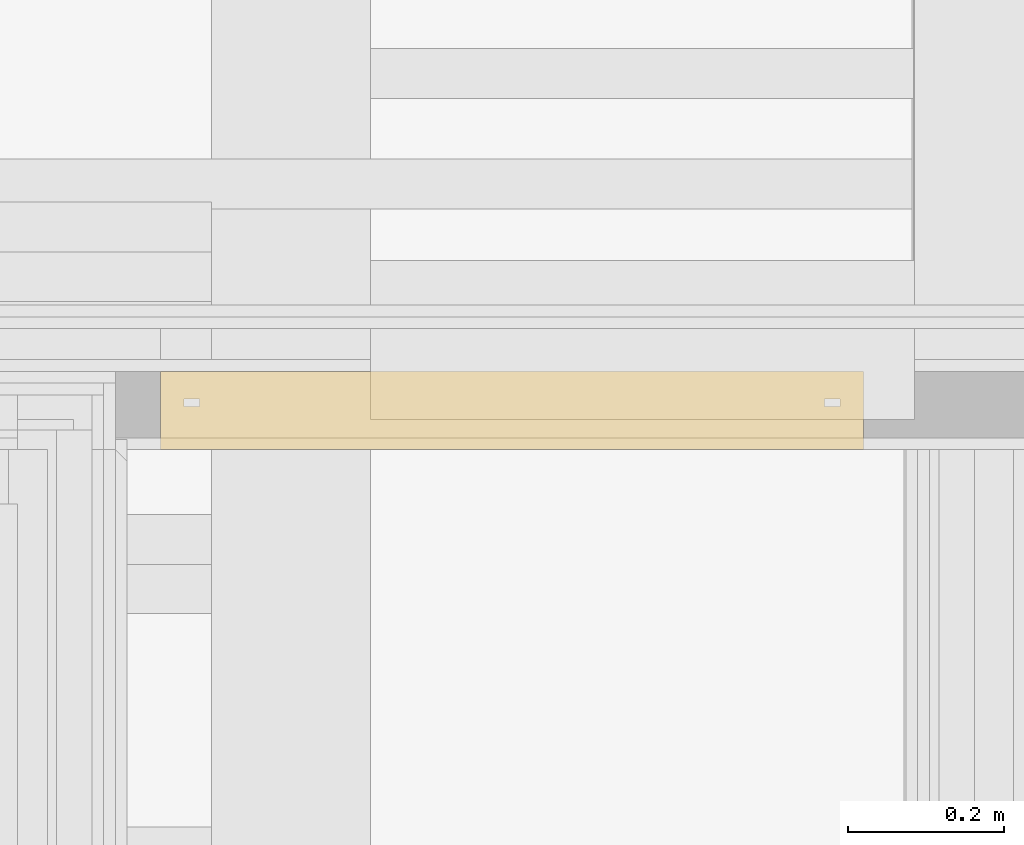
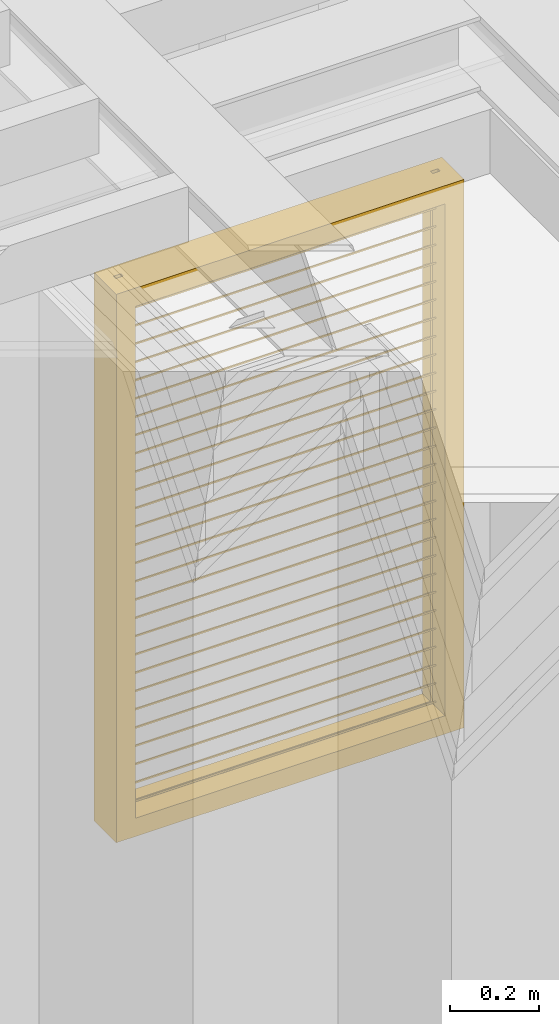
# One storey, part 120 of 183: 1 curtain wall.
"""IFC2X3 building model written with IfcOpenShell, lengths in metres."""

from ifc_helpers import new_model, entity, si_unit, converted_unit, derived_unit, money_unit, direction, frame, origin_with_axes, place, context, subcontext, project, spatial, open_shell, surface_model, material, type_object, element, save


model = new_model("IFC2X3")

# Units and contexts
model_context = context("Model", 3, precision=1e-05, world=origin_with_axes(), true_north=direction((0.0, 1.0)))
body_context = subcontext(model_context, "Body", "Model", "MODEL_VIEW", scale=1.0)
ifc_project = project(units=[si_unit("LENGTHUNIT", "METRE"), si_unit("AREAUNIT", "SQUARE_METRE"), si_unit("VOLUMEUNIT", "CUBIC_METRE"), si_unit("ABSORBEDDOSEUNIT", "GRAY"), si_unit("AMOUNTOFSUBSTANCEUNIT", "MOLE"), si_unit("DOSEEQUIVALENTUNIT", "SIEVERT"), si_unit("ELECTRICCAPACITANCEUNIT", "FARAD"), si_unit("ELECTRICCHARGEUNIT", "COULOMB"), si_unit("ELECTRICCONDUCTANCEUNIT", "SIEMENS"), si_unit("ELECTRICCURRENTUNIT", "AMPERE"), si_unit("ELECTRICRESISTANCEUNIT", "OHM"), si_unit("ELECTRICVOLTAGEUNIT", "VOLT"), si_unit("ENERGYUNIT", "JOULE"), si_unit("FORCEUNIT", "NEWTON"), si_unit("FREQUENCYUNIT", "HERTZ"), si_unit("ILLUMINANCEUNIT", "LUX"), si_unit("INDUCTANCEUNIT", "HENRY"), si_unit("LUMINOUSFLUXUNIT", "LUMEN"), si_unit("LUMINOUSINTENSITYUNIT", "CANDELA"), si_unit("MAGNETICFLUXDENSITYUNIT", "TESLA"), si_unit("MAGNETICFLUXUNIT", "WEBER"), si_unit("MASSUNIT", "GRAM"), converted_unit("PLANEANGLEUNIT", "degree", entity("IfcReal", 0.0174532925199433), si_unit("PLANEANGLEUNIT", "RADIAN"), dimensions=[0, 0, 0, 0, 0, 0, 0]), si_unit("POWERUNIT", "WATT"), si_unit("PRESSUREUNIT", "PASCAL"), si_unit("RADIOACTIVITYUNIT", "BECQUEREL"), si_unit("SOLIDANGLEUNIT", "STERADIAN"), si_unit("THERMODYNAMICTEMPERATUREUNIT", "KELVIN"), si_unit("TIMEUNIT", "SECOND"), derived_unit("ACCELERATIONUNIT", [(si_unit("LENGTHUNIT", "METRE"), 1), (si_unit("TIMEUNIT", "SECOND"), -2)]), derived_unit("ANGULARVELOCITYUNIT", [(converted_unit("PLANEANGLEUNIT", "degree", entity("IfcReal", 0.0174532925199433), si_unit("PLANEANGLEUNIT", "RADIAN"), dimensions=[0, 0, 0, 0, 0, 0, 0]), 1), (si_unit("TIMEUNIT", "SECOND"), -1)]), derived_unit("CURVATUREUNIT", [(converted_unit("PLANEANGLEUNIT", "degree", entity("IfcReal", 0.0174532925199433), si_unit("PLANEANGLEUNIT", "RADIAN"), dimensions=[0, 0, 0, 0, 0, 0, 0]), 1), (si_unit("LENGTHUNIT", "METRE"), -1)]), derived_unit("DYNAMICVISCOSITYUNIT", [(si_unit("PRESSUREUNIT", "PASCAL"), 1), (si_unit("TIMEUNIT", "SECOND"), 1)]), derived_unit("HEATFLUXDENSITYUNIT", [(si_unit("POWERUNIT", "WATT"), 1), (si_unit("LENGTHUNIT", "METRE"), -2)]), derived_unit("HEATINGVALUEUNIT", [(si_unit("ENERGYUNIT", "JOULE"), 1), (si_unit("MASSUNIT", "GRAM"), -1)]), derived_unit("INTEGERCOUNTRATEUNIT", [(si_unit("TIMEUNIT", "SECOND"), -1)]), derived_unit("IONCONCENTRATIONUNIT", [(si_unit("MASSUNIT", "GRAM"), 1), (si_unit("VOLUMEUNIT", "CUBIC_METRE"), -1)]), derived_unit("ISOTHERMALMOISTURECAPACITYUNIT", [(si_unit("VOLUMEUNIT", "CUBIC_METRE"), 1), (si_unit("MASSUNIT", "GRAM"), -1)]), derived_unit("KINEMATICVISCOSITYUNIT", [(si_unit("AREAUNIT", "SQUARE_METRE"), 1), (si_unit("TIMEUNIT", "SECOND"), -1)]), derived_unit("LINEARFORCEUNIT", [(si_unit("FORCEUNIT", "NEWTON"), 1), (si_unit("LENGTHUNIT", "METRE"), -1)]), derived_unit("LINEARMOMENTUNIT", [(si_unit("FORCEUNIT", "NEWTON"), 1), (si_unit("LENGTHUNIT", "METRE"), -1)]), derived_unit("LINEARSTIFFNESSUNIT", [(si_unit("FORCEUNIT", "NEWTON"), 1), (si_unit("LENGTHUNIT", "METRE"), -1)]), derived_unit("LINEARVELOCITYUNIT", [(si_unit("LENGTHUNIT", "METRE"), 1), (si_unit("TIMEUNIT", "SECOND"), -1)]), derived_unit("LUMINOUSINTENSITYDISTRIBUTIONUNIT", [(si_unit("LUMINOUSINTENSITYUNIT", "CANDELA"), 1), (si_unit("LUMINOUSFLUXUNIT", "LUMEN"), -1)]), derived_unit("MASSDENSITYUNIT", [(si_unit("MASSUNIT", "GRAM"), 1), (si_unit("VOLUMEUNIT", "CUBIC_METRE"), -1)]), derived_unit("MASSFLOWRATEUNIT", [(si_unit("MASSUNIT", "GRAM"), 1), (si_unit("TIMEUNIT", "SECOND"), -1)]), derived_unit("MASSPERLENGTHUNIT", [(si_unit("MASSUNIT", "GRAM"), 1), (si_unit("LENGTHUNIT", "METRE"), -1)]), derived_unit("MODULUSOFELASTICITYUNIT", [(si_unit("FORCEUNIT", "NEWTON"), 1), (si_unit("AREAUNIT", "SQUARE_METRE"), -1)]), derived_unit("MODULUSOFLINEARSUBGRADEREACTIONUNIT", [(si_unit("FORCEUNIT", "NEWTON"), 1), (si_unit("LENGTHUNIT", "METRE"), -2)]), derived_unit("MODULUSOFROTATIONALSUBGRADEREACTIONUNIT", [(si_unit("FORCEUNIT", "NEWTON"), 1), (si_unit("LENGTHUNIT", "METRE"), 1)]), derived_unit("MODULUSOFSUBGRADEREACTIONUNIT", [(si_unit("FORCEUNIT", "NEWTON"), 1), (si_unit("VOLUMEUNIT", "CUBIC_METRE"), -1)]), derived_unit("MOISTUREDIFFUSIVITYUNIT", [(si_unit("VOLUMEUNIT", "CUBIC_METRE"), 1), (si_unit("TIMEUNIT", "SECOND"), -1)]), derived_unit("MOLECULARWEIGHTUNIT", [(si_unit("MASSUNIT", "GRAM"), 1), (si_unit("AMOUNTOFSUBSTANCEUNIT", "MOLE"), -1)]), derived_unit("PLANARFORCEUNIT", [(si_unit("FORCEUNIT", "NEWTON"), 1), (si_unit("LENGTHUNIT", "METRE"), -2)]), derived_unit("ROTATIONALFREQUENCYUNIT", [(si_unit("TIMEUNIT", "SECOND"), -1)]), derived_unit("ROTATIONALMASSUNIT", [(si_unit("MASSUNIT", "GRAM"), 1), (si_unit("LENGTHUNIT", "METRE"), 2)]), derived_unit("ROTATIONALSTIFFNESSUNIT", [(si_unit("FORCEUNIT", "NEWTON"), 1), (si_unit("LENGTHUNIT", "METRE"), 1), (converted_unit("PLANEANGLEUNIT", "degree", entity("IfcReal", 0.0174532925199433), si_unit("PLANEANGLEUNIT", "RADIAN"), dimensions=[0, 0, 0, 0, 0, 0, 0]), -1)]), derived_unit("SECTIONAREAINTEGRALUNIT", [(si_unit("LENGTHUNIT", "METRE"), 5)]), derived_unit("SECTIONMODULUSUNIT", [(si_unit("LENGTHUNIT", "METRE"), 3)]), derived_unit("SHEARMODULUSUNIT", [(si_unit("FORCEUNIT", "NEWTON"), 1), (si_unit("AREAUNIT", "SQUARE_METRE"), -1)]), derived_unit("SOUNDPOWERUNIT", [(si_unit("ENERGYUNIT", "JOULE"), 1), (si_unit("TIMEUNIT", "SECOND"), -1)]), derived_unit("SPECIFICHEATCAPACITYUNIT", [(si_unit("FORCEUNIT", "NEWTON"), 1), (si_unit("MASSUNIT", "GRAM"), -1), (si_unit("THERMODYNAMICTEMPERATUREUNIT", "KELVIN"), -1)]), derived_unit("TEMPERATUREGRADIENTUNIT", [(si_unit("THERMODYNAMICTEMPERATUREUNIT", "KELVIN"), 1), (si_unit("LENGTHUNIT", "METRE"), -1)]), derived_unit("THERMALADMITTANCEUNIT", [(si_unit("POWERUNIT", "WATT"), 1), (si_unit("AREAUNIT", "SQUARE_METRE"), -1), (si_unit("THERMODYNAMICTEMPERATUREUNIT", "KELVIN"), -1)]), derived_unit("THERMALCONDUCTANCEUNIT", [(si_unit("POWERUNIT", "WATT"), 1), (si_unit("LENGTHUNIT", "METRE"), -1), (si_unit("THERMODYNAMICTEMPERATUREUNIT", "KELVIN"), -1)]), derived_unit("THERMALEXPANSIONCOEFFICIENTUNIT", [(si_unit("THERMODYNAMICTEMPERATUREUNIT", "KELVIN"), -1)]), derived_unit("THERMALRESISTANCEUNIT", [(si_unit("AREAUNIT", "SQUARE_METRE"), 1), (si_unit("POWERUNIT", "WATT"), -1)]), derived_unit("THERMALTRANSMITTANCEUNIT", [(si_unit("POWERUNIT", "WATT"), 1), (si_unit("AREAUNIT", "SQUARE_METRE"), -1), (si_unit("THERMODYNAMICTEMPERATUREUNIT", "KELVIN"), -1)]), derived_unit("TORQUEUNIT", [(si_unit("FORCEUNIT", "NEWTON"), 1), (si_unit("LENGTHUNIT", "METRE"), 1)]), derived_unit("VAPORPERMEABILITYUNIT", [(si_unit("MASSUNIT", "GRAM"), 1), (si_unit("TIMEUNIT", "SECOND"), -1)]), derived_unit("VOLUMETRICFLOWRATEUNIT", [(si_unit("VOLUMEUNIT", "CUBIC_METRE"), 1), (si_unit("TIMEUNIT", "SECOND"), -1)]), derived_unit("WARPINGCONSTANTUNIT", [(si_unit("LENGTHUNIT", "METRE"), 6)]), derived_unit("WARPINGMOMENTUNIT", [(si_unit("FORCEUNIT", "NEWTON"), 1), (si_unit("LENGTHUNIT", "METRE"), 2)]), money_unit("GBP")], contexts=[model_context])

# Site, building, storey
site_placement = place(None, origin_with_axes())
site = spatial("IfcSite", under=ifc_project, at=site_placement, Name="Site", CompositionType="ELEMENT")
building_placement = place(site_placement, origin_with_axes())
building = spatial("IfcBuilding", under=site, at=building_placement, Name="Building01", CompositionType="ELEMENT")
storey_placement = place(building_placement, frame((0.0, 0.0, 5.15), z_axis=(0.0, 0.0, 1.0), x_axis=(1.0, 0.0, 0.0)))
storey = spatial("IfcBuildingStorey", under=building, at=storey_placement, Name="1F", CompositionType="ELEMENT", Elevation=5.15)

# Curtain wall
ifc_material = material(Name="A-CurtainWall_Frame")
curtain_wall_type = type_object("IfcCurtainWallType", Name="Generic - Maximum Spacing", PredefinedType="NOTDEFINED")
curtain_wall_placement = place(storey_placement, frame((0.0, 0.0, -5.15), z_axis=(0.0, 0.0, 1.0), x_axis=(1.0, 0.0, 0.0)))
element("IfcCurtainWall", 1, at=curtain_wall_placement, inside=storey, type_object=curtain_wall_type, material=ifc_material, Name="Generic - Maximum Spacing", ObjectType="Generic - Maximum Spacing", context=body_context, shape_type="SurfaceModel", body=[
    surface_model("IfcShellBasedSurfaceModel", [(12.483, 5.05953, 15.763684), (12.483, 5.061392, 15.766216), (12.483, 5.02047, 15.796316), (12.483, 5.018608, 15.793784), (13.283, 5.05953, 15.763684), (13.283, 5.018608, 15.793784), (13.283, 5.02047, 15.796316), (13.283, 5.061392, 15.766216), (12.483, 5.061392, 15.816216), (12.483, 5.02047, 15.846316), (12.483, 5.018608, 15.843784), (12.483, 5.05953, 15.813684), (13.283, 5.05953, 15.813684), (13.283, 5.018608, 15.843784), (13.283, 5.02047, 15.846316), (13.283, 5.061392, 15.816216), (12.483, 5.061392, 15.866216), (12.483, 5.02047, 15.896316), (12.483, 5.018608, 15.893784), (12.483, 5.05953, 15.863684), (13.283, 5.05953, 15.863684), (13.283, 5.018608, 15.893784), (13.283, 5.02047, 15.896316), (13.283, 5.061392, 15.866216), (12.483, 5.061392, 15.916216), (12.483, 5.02047, 15.946316), (12.483, 5.018608, 15.943784), (12.483, 5.05953, 15.913684), (13.283, 5.05953, 15.913684), (13.283, 5.018608, 15.943784), (13.283, 5.02047, 15.946316), (13.283, 5.061392, 15.916216), (12.483, 5.061392, 15.966216), (12.483, 5.02047, 15.996316), (12.483, 5.018608, 15.993784), (12.483, 5.05953, 15.963684), (13.283, 5.05953, 15.963684), (13.283, 5.018608, 15.993784), (13.283, 5.02047, 15.996316), (13.283, 5.061392, 15.966216), (12.483, 5.061392, 16.016216), (12.483, 5.02047, 16.046316), (12.483, 5.018608, 16.043784), (12.483, 5.05953, 16.013684), (13.283, 5.05953, 16.013684), (13.283, 5.018608, 16.043784), (13.283, 5.02047, 16.046316), (13.283, 5.061392, 16.016216), (12.483, 5.061392, 16.066216), (12.483, 5.02047, 16.096316), (12.483, 5.018608, 16.093784), (12.483, 5.05953, 16.063684), (13.283, 5.05953, 16.063684), (13.283, 5.018608, 16.093784), (13.283, 5.02047, 16.096316), (13.283, 5.061392, 16.066216), (12.483, 5.061392, 16.116216), (12.483, 5.02047, 16.146316), (12.483, 5.018608, 16.143784), (12.483, 5.05953, 16.113684), (13.283, 5.05953, 16.113684), (13.283, 5.018608, 16.143784), (13.283, 5.02047, 16.146316), (13.283, 5.061392, 16.116216), (12.483, 5.061392, 16.166216), (12.483, 5.02047, 16.196316), (12.483, 5.018608, 16.193784), (12.483, 5.05953, 16.163684), (13.283, 5.05953, 16.163684), (13.283, 5.018608, 16.193784), (13.283, 5.02047, 16.196316), (13.283, 5.061392, 16.166216), (12.483, 5.061392, 16.216216), (12.483, 5.02047, 16.246316), (12.483, 5.018608, 16.243784), (12.483, 5.05953, 16.213684), (13.283, 5.05953, 16.213684), (13.283, 5.018608, 16.243784), (13.283, 5.02047, 16.246316), (13.283, 5.061392, 16.216216), (12.483, 5.061392, 16.266216), (12.483, 5.02047, 16.296316), (12.483, 5.018608, 16.293784), (12.483, 5.05953, 16.263684), (13.283, 5.05953, 16.263684), (13.283, 5.018608, 16.293784), (13.283, 5.02047, 16.296316), (13.283, 5.061392, 16.266216), (12.483, 5.061392, 16.316216), (12.483, 5.02047, 16.346316), (12.483, 5.018608, 16.343784), (12.483, 5.05953, 16.313684), (13.283, 5.05953, 16.313684), (13.283, 5.018608, 16.343784), (13.283, 5.02047, 16.346316), (13.283, 5.061392, 16.316216), (12.483, 5.061392, 16.366216), (12.483, 5.02047, 16.396316), (12.483, 5.018608, 16.393784), (12.483, 5.05953, 16.363684), (13.283, 5.05953, 16.363684), (13.283, 5.018608, 16.393784), (13.283, 5.02047, 16.396316), (13.283, 5.061392, 16.366216), (12.483, 5.061392, 16.416216), (12.483, 5.02047, 16.446316), (12.483, 5.018608, 16.443784), (12.483, 5.05953, 16.413684), (13.283, 5.05953, 16.413684), (13.283, 5.018608, 16.443784), (13.283, 5.02047, 16.446316), (13.283, 5.061392, 16.416216), (12.483, 5.061392, 16.466216), (12.483, 5.02047, 16.496316), (12.483, 5.018608, 16.493784), (12.483, 5.05953, 16.463684), (13.283, 5.05953, 16.463684), (13.283, 5.018608, 16.493784), (13.283, 5.02047, 16.496316), (13.283, 5.061392, 16.466216), (12.483, 5.061392, 16.516216), (12.483, 5.02047, 16.546316), (12.483, 5.018608, 16.543784), (12.483, 5.05953, 16.513684), (13.283, 5.05953, 16.513684), (13.283, 5.018608, 16.543784), (13.283, 5.02047, 16.546316), (13.283, 5.061392, 16.516216), (12.483, 5.061392, 16.566216), (12.483, 5.02047, 16.596316), (12.483, 5.018608, 16.593784), (12.483, 5.05953, 16.563684), (13.283, 5.05953, 16.563684), (13.283, 5.018608, 16.593784), (13.283, 5.02047, 16.596316), (13.283, 5.061392, 16.566216), (12.483, 5.061392, 16.616216), (12.483, 5.02047, 16.646316), (12.483, 5.018608, 16.643784), (12.483, 5.05953, 16.613684), (13.283, 5.05953, 16.613684), (13.283, 5.018608, 16.643784), (13.283, 5.02047, 16.646316), (13.283, 5.061392, 16.616216), (12.483, 5.061392, 16.666216), (12.483, 5.02047, 16.696316), (12.483, 5.018608, 16.693784), (12.483, 5.05953, 16.663684), (13.283, 5.05953, 16.663684), (13.283, 5.018608, 16.693784), (13.283, 5.02047, 16.696316), (13.283, 5.061392, 16.666216), (12.483, 5.061392, 16.716216), (12.483, 5.02047, 16.746316), (12.483, 5.018608, 16.743784), (12.483, 5.05953, 16.713684), (13.283, 5.05953, 16.713684), (13.283, 5.018608, 16.743784), (13.283, 5.02047, 16.746316), (13.283, 5.061392, 16.716216), (12.483, 5.061392, 16.766216), (12.483, 5.02047, 16.796316), (12.483, 5.018608, 16.793784), (12.483, 5.05953, 16.763684), (13.283, 5.05953, 16.763684), (13.283, 5.018608, 16.793784), (13.283, 5.02047, 16.796316), (13.283, 5.061392, 16.766216), (12.483, 5.061392, 16.816216), (12.483, 5.02047, 16.846316), (12.483, 5.018608, 16.843784), (12.483, 5.05953, 16.813684), (13.283, 5.05953, 16.813684), (13.283, 5.018608, 16.843784), (13.283, 5.02047, 16.846316), (13.283, 5.061392, 16.816216), (12.483, 5.061392, 16.866216), (12.483, 5.02047, 16.896316), (12.483, 5.018608, 16.893784), (12.483, 5.05953, 16.863684), (13.283, 5.05953, 16.863684), (13.283, 5.018608, 16.893784), (13.283, 5.02047, 16.896316), (13.283, 5.061392, 16.866216), (12.483, 5.061392, 16.916216), (12.483, 5.02047, 16.946316), (12.483, 5.018608, 16.943784), (12.483, 5.05953, 16.913684), (13.283, 5.05953, 16.913684), (13.283, 5.018608, 16.943784), (13.283, 5.02047, 16.946316), (13.283, 5.061392, 16.916216), (12.483, 5.061392, 16.966216), (12.483, 5.02047, 16.996316), (12.483, 5.018608, 16.993784), (12.483, 5.05953, 16.963684), (13.283, 5.05953, 16.963684), (13.283, 5.018608, 16.993784), (13.283, 5.02047, 16.996316), (13.283, 5.061392, 16.966216), (12.483, 5.061392, 17.016216), (12.483, 5.02047, 17.046316), (12.483, 5.018608, 17.043784), (12.483, 5.05953, 17.013684), (13.283, 5.05953, 17.013684), (13.283, 5.018608, 17.043784), (13.283, 5.02047, 17.046316), (13.283, 5.061392, 17.016216), (12.483, 5.061392, 17.066216), (12.483, 5.02047, 17.096316), (12.483, 5.018608, 17.093784), (12.483, 5.05953, 17.063684), (13.283, 5.05953, 17.063684), (13.283, 5.018608, 17.093784), (13.283, 5.02047, 17.096316), (13.283, 5.061392, 17.066216), (12.483, 5.061392, 17.116216), (12.483, 5.02047, 17.146316), (12.483, 5.018608, 17.143784), (12.483, 5.05953, 17.113684), (13.283, 5.05953, 17.113684), (13.283, 5.018608, 17.143784), (13.283, 5.02047, 17.146316), (13.283, 5.061392, 17.116216), (12.483, 5.061392, 17.166216), (12.483, 5.02047, 17.196316), (12.483, 5.018608, 17.193784), (12.483, 5.05953, 17.163684), (13.283, 5.05953, 17.163684), (13.283, 5.018608, 17.193784), (13.283, 5.02047, 17.196316), (13.283, 5.061392, 17.166216), (13.283, 5.08, 15.78), (13.283, 5.045, 15.78), (13.283, 5.045, 15.76), (13.283, 5.035, 15.76), (13.283, 5.035, 15.78), (13.283, 4.98, 15.78), (13.283, 4.98, 15.73), (13.283, 5.08, 15.73), (12.483, 5.08, 15.73), (12.483, 5.08, 15.78), (12.483, 5.045, 15.78), (12.483, 5.045, 15.76), (12.483, 5.035, 15.76), (12.483, 5.035, 15.78), (12.483, 4.98, 15.78), (12.483, 4.98, 15.73), (13.333, 5.08, 17.23), (13.283, 5.08, 17.23), (13.283, 5.045, 17.23), (13.303, 5.045, 17.23), (13.303, 5.035, 17.23), (13.283, 5.035, 17.23), (13.283, 4.98, 17.23), (13.333, 4.98, 17.23), (13.333, 4.98, 15.73), (13.333, 5.08, 15.73), (13.283, 5.045, 15.73), (13.303, 5.045, 15.73), (13.303, 5.035, 15.73), (13.283, 5.035, 15.73), (12.483, 5.045, 17.2), (12.483, 5.035, 17.2), (12.483, 5.035, 17.18), (12.483, 4.98, 17.18), (12.483, 4.98, 17.23), (12.483, 5.08, 17.23), (12.483, 5.08, 17.18), (12.483, 5.045, 17.18), (13.283, 5.045, 17.18), (13.283, 5.045, 17.2), (13.283, 5.035, 17.2), (13.283, 5.035, 17.18), (13.283, 4.98, 17.18), (13.283, 5.08, 17.18), (12.433, 5.08, 15.73), (12.483, 5.045, 15.73), (12.463, 5.045, 15.73), (12.463, 5.035, 15.73), (12.483, 5.035, 15.73), (12.433, 4.98, 15.73), (12.433, 4.98, 17.23), (12.433, 5.08, 17.23), (12.483, 5.045, 17.23), (12.463, 5.045, 17.23), (12.463, 5.035, 17.23), (12.483, 5.035, 17.23)], [open_shell([[[0, 1, 2, 3]], [[1, 2, 3, 0]], [[4, 5, 6, 7]], [[1, 0, 4, 7]], [[2, 1, 7, 6]], [[3, 2, 6, 5]], [[4, 0, 3, 5]], [[8, 9, 10, 11]], [[12, 13, 14, 15]], [[8, 11, 12, 15]], [[9, 8, 15, 14]], [[10, 9, 14, 13]], [[12, 11, 10, 13]], [[16, 17, 18, 19]], [[20, 21, 22, 23]], [[16, 19, 20, 23]], [[17, 16, 23, 22]], [[18, 17, 22, 21]], [[20, 19, 18, 21]], [[24, 25, 26, 27]], [[28, 29, 30, 31]], [[24, 27, 28, 31]], [[25, 24, 31, 30]], [[26, 25, 30, 29]], [[28, 27, 26, 29]], [[32, 33, 34, 35]], [[36, 37, 38, 39]], [[32, 35, 36, 39]], [[33, 32, 39, 38]], [[34, 33, 38, 37]], [[36, 35, 34, 37]], [[40, 41, 42, 43]], [[44, 45, 46, 47]], [[40, 43, 44, 47]], [[41, 40, 47, 46]], [[42, 41, 46, 45]], [[44, 43, 42, 45]], [[48, 49, 50, 51]], [[52, 53, 54, 55]], [[48, 51, 52, 55]], [[49, 48, 55, 54]], [[50, 49, 54, 53]], [[52, 51, 50, 53]], [[56, 57, 58, 59]], [[60, 61, 62, 63]], [[56, 59, 60, 63]], [[57, 56, 63, 62]], [[58, 57, 62, 61]], [[60, 59, 58, 61]], [[64, 65, 66, 67]], [[68, 69, 70, 71]], [[64, 67, 68, 71]], [[65, 64, 71, 70]], [[66, 65, 70, 69]], [[68, 67, 66, 69]], [[72, 73, 74, 75]], [[76, 77, 78, 79]], [[72, 75, 76, 79]], [[73, 72, 79, 78]], [[74, 73, 78, 77]], [[76, 75, 74, 77]], [[80, 81, 82, 83]], [[84, 85, 86, 87]], [[80, 83, 84, 87]], [[81, 80, 87, 86]], [[82, 81, 86, 85]], [[84, 83, 82, 85]], [[88, 89, 90, 91]], [[92, 93, 94, 95]], [[88, 91, 92, 95]], [[89, 88, 95, 94]], [[90, 89, 94, 93]], [[92, 91, 90, 93]], [[96, 97, 98, 99]], [[100, 101, 102, 103]], [[96, 99, 100, 103]], [[97, 96, 103, 102]], [[98, 97, 102, 101]], [[100, 99, 98, 101]], [[104, 105, 106, 107]], [[108, 109, 110, 111]], [[104, 107, 108, 111]], [[105, 104, 111, 110]], [[106, 105, 110, 109]], [[108, 107, 106, 109]], [[112, 113, 114, 115]], [[116, 117, 118, 119]], [[112, 115, 116, 119]], [[113, 112, 119, 118]], [[114, 113, 118, 117]], [[116, 115, 114, 117]], [[120, 121, 122, 123]], [[124, 125, 126, 127]], [[120, 123, 124, 127]], [[121, 120, 127, 126]], [[122, 121, 126, 125]], [[124, 123, 122, 125]], [[128, 129, 130, 131]], [[132, 133, 134, 135]], [[128, 131, 132, 135]], [[129, 128, 135, 134]], [[130, 129, 134, 133]], [[132, 131, 130, 133]], [[136, 137, 138, 139]], [[140, 141, 142, 143]], [[136, 139, 140, 143]], [[137, 136, 143, 142]], [[138, 137, 142, 141]], [[140, 139, 138, 141]], [[144, 145, 146, 147]], [[148, 149, 150, 151]], [[144, 147, 148, 151]], [[145, 144, 151, 150]], [[146, 145, 150, 149]], [[148, 147, 146, 149]], [[152, 153, 154, 155]], [[156, 157, 158, 159]], [[152, 155, 156, 159]], [[153, 152, 159, 158]], [[154, 153, 158, 157]], [[156, 155, 154, 157]], [[160, 161, 162, 163]], [[164, 165, 166, 167]], [[160, 163, 164, 167]], [[161, 160, 167, 166]], [[162, 161, 166, 165]], [[164, 163, 162, 165]], [[168, 169, 170, 171]], [[172, 173, 174, 175]], [[168, 171, 172, 175]], [[169, 168, 175, 174]], [[170, 169, 174, 173]], [[172, 171, 170, 173]], [[176, 177, 178, 179]], [[180, 181, 182, 183]], [[176, 179, 180, 183]], [[177, 176, 183, 182]], [[178, 177, 182, 181]], [[180, 179, 178, 181]], [[184, 185, 186, 187]], [[188, 189, 190, 191]], [[184, 187, 188, 191]], [[185, 184, 191, 190]], [[186, 185, 190, 189]], [[188, 187, 186, 189]], [[192, 193, 194, 195]], [[196, 197, 198, 199]], [[192, 195, 196, 199]], [[193, 192, 199, 198]], [[194, 193, 198, 197]], [[196, 195, 194, 197]], [[200, 201, 202, 203]], [[204, 205, 206, 207]], [[200, 203, 204, 207]], [[201, 200, 207, 206]], [[202, 201, 206, 205]], [[204, 203, 202, 205]], [[208, 209, 210, 211]], [[212, 213, 214, 215]], [[208, 211, 212, 215]], [[209, 208, 215, 214]], [[210, 209, 214, 213]], [[212, 211, 210, 213]], [[216, 217, 218, 219]], [[220, 221, 222, 223]], [[216, 219, 220, 223]], [[217, 216, 223, 222]], [[218, 217, 222, 221]], [[220, 219, 218, 221]], [[224, 225, 226, 227]], [[228, 229, 230, 231]], [[224, 227, 228, 231]], [[225, 224, 231, 230]], [[226, 225, 230, 229]], [[228, 227, 226, 229]], [[232, 233, 234, 235, 236, 237, 238, 239]], [[239, 240, 241, 232]], [[232, 241, 242, 233]], [[233, 242, 243, 234]], [[234, 243, 244, 235]], [[235, 244, 245, 236]], [[236, 245, 246, 237]], [[237, 246, 247, 238]], [[238, 247, 240, 239]], [[240, 247, 246, 245, 244, 243, 242, 241]], [[248, 249, 250, 251, 252, 253, 254, 255]], [[255, 256, 257, 248]], [[248, 257, 239, 249]], [[249, 239, 258, 250]], [[250, 258, 259, 251]], [[251, 259, 260, 252]], [[252, 260, 261, 253]], [[253, 261, 238, 254]], [[254, 238, 256, 255]], [[238, 261, 260, 259, 258, 239, 257, 256]], [[262, 263, 264, 265, 266, 267, 268, 269]], [[269, 270, 271, 262]], [[262, 271, 272, 263]], [[263, 272, 273, 264]], [[264, 273, 274, 265]], [[265, 274, 254, 266]], [[266, 254, 249, 267]], [[267, 249, 275, 268]], [[268, 275, 270, 269]], [[270, 275, 249, 254, 274, 273, 272, 271]], [[276, 240, 277, 278, 279, 280, 247, 281]], [[281, 282, 283, 276]], [[276, 283, 267, 240]], [[240, 267, 284, 277]], [[277, 284, 285, 278]], [[278, 285, 286, 279]], [[279, 286, 287, 280]], [[280, 287, 266, 247]], [[247, 266, 282, 281]], [[266, 287, 286, 285, 284, 267, 283, 282]]])]),
])

save(model, "model.ifc")
